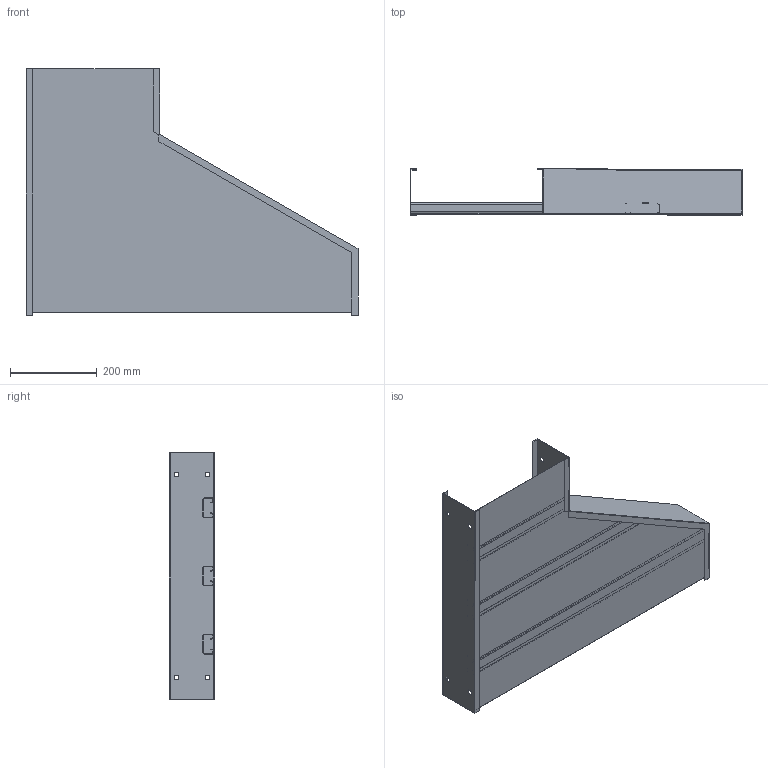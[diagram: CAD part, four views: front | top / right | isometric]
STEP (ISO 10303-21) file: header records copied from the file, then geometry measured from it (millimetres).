
FILE_DESCRIPTION((''),'2;1');
FILE_NAME('AUF43012SHRR_ASM','2010-01-27T',('erouzier'),(''),'PRO/ENGINEER BY PARAMETRIC TECHNOLOGY CORPORATION, 2008510','PRO/ENGINEER BY PARAMETRIC TECHNOLOGY CORPORATION, 2008510','');
FILE_SCHEMA(('CONFIG_CONTROL_DESIGN'));
Length unit declared in the file: inch
Products named in the file (7): CDS013975-4-18; CDS013866-4-180; CDS002159L30; CDS002159L24_AF1; CDS002159L12_AF1; CDS014361-30-12; AUF43012SHRR_ASM
Assembly tree (6 placements, depth 2):
  AUF43012SHRR_ASM
    CDS013975-4-18
    CDS013866-4-180
    CDS002159L30
    CDS002159L24_AF1
    CDS002159L12_AF1
    CDS014361-30-12
Bounding box: 766.57 x 106.05 x 568.76 mm (x, y, z)
Volume: 949324.8 mm3; surface area: 1355142 mm2
Topology: 6 solids, 6 shells, 164 faces, 450 edges, 298 vertices
Faces by surface type: plane 131, cylinder 33
Entity records: 5425 total; most frequent: CARTESIAN_POINT 1015, ORIENTED_EDGE 900, DIRECTION 848, EDGE_CURVE 450, VECTOR 384, LINE 384, VERTEX_POINT 298, AXIS2_PLACEMENT_3D 232
